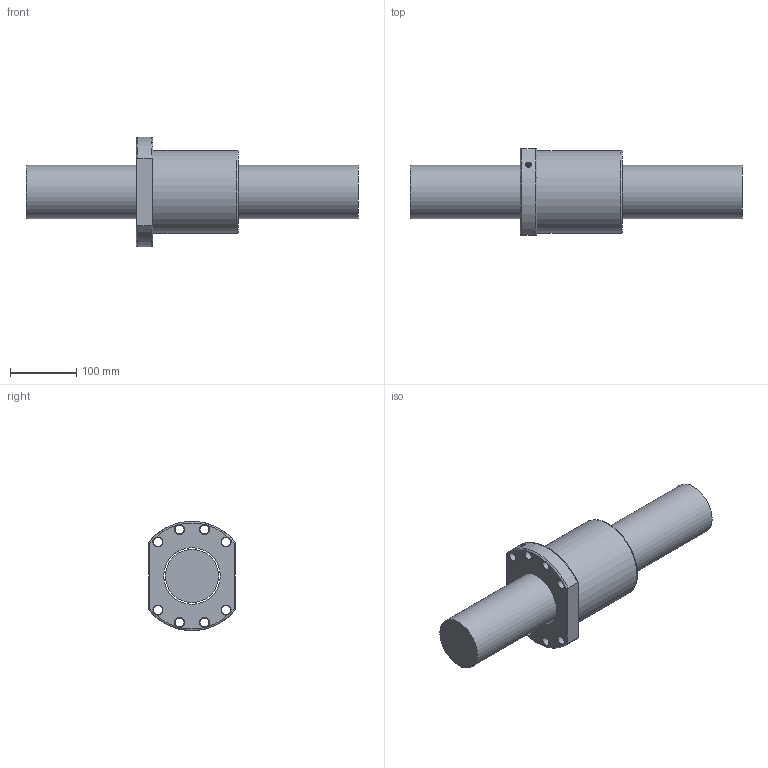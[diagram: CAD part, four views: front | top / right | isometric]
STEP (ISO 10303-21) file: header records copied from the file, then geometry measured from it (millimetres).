
FILE_DESCRIPTION (( 'STEP AP203' ), '1' );
FILE_NAME ('SFNU08020D-4.step', '2024-05-14T06:35:08', ( '' ), ( '' ), 'SwSTEP 2.0', 'SolidWorks 2022', '' );
FILE_SCHEMA (( 'CONFIG_CONTROL_DESIGN' ));
Length unit declared in the file: millimetre
Products named in the file (1): SFNU08020D-4
Bounding box: 500 x 130 x 164.44 mm (x, y, z)
Volume: 3661189.6 mm3; surface area: 271920.3 mm2
Topology: 2 solids, 2 shells, 58 faces, 189 edges, 120 vertices
Faces by surface type: cylinder 20, cone 17, plane 12, torus 5, bspline 4
Full cylindrical faces by diameter (mm): 4 x1, 7 x5, 13.5 x8, 80 x1, 85.2 x1, 125 x1
Entity records: 3529 total; most frequent: CARTESIAN_POINT 2207, ORIENTED_EDGE 246, DIRECTION 246, EDGE_CURVE 123, AXIS2_PLACEMENT_3D 115, VERTEX_POINT 91, EDGE_LOOP 90, FACE_OUTER_BOUND 68
